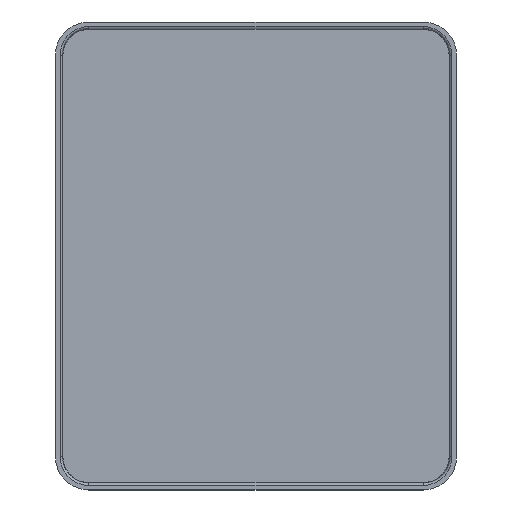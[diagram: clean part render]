
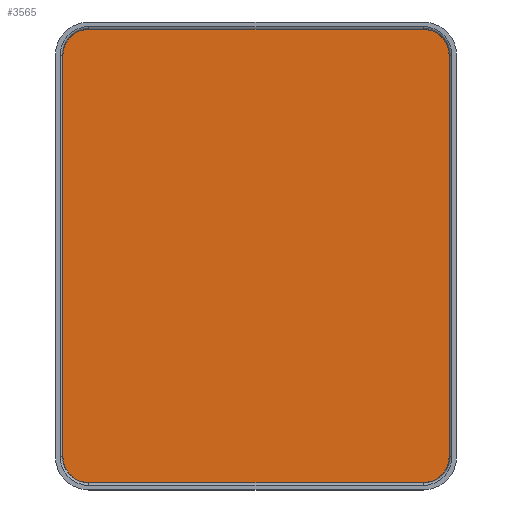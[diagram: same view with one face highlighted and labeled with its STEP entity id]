
A CAD part, top view. The second image highlights one B-rep face of the part: STEP entity #3565.
In plain terms, the highlighted planar face has unit normal (0, 0, 1).
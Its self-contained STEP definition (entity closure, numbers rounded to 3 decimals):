
#452 = ORIENTED_EDGE ( 'NONE', *, *, #12867, .T. ) ;
#756 = EDGE_CURVE ( 'NONE', #15753, #10880, #2962, .T. ) ;
#2051 = AXIS2_PLACEMENT_3D ( 'NONE', #8614, #9884, #8693 ) ;
#2128 = CARTESIAN_POINT ( 'NONE',  ( -250., -338.893, 6. ) ) ;
#2144 = VECTOR ( 'NONE', #12189, 1000. ) ;
#2242 = ORIENTED_EDGE ( 'NONE', *, *, #6476, .T. ) ;
#2291 = CIRCLE ( 'NONE', #12994, 38.893 ) ;
#2889 = EDGE_CURVE ( 'NONE', #7442, #9855, #14945, .T. ) ;
#2904 = VECTOR ( 'NONE', #4018, 1000. ) ;
#2910 = ORIENTED_EDGE ( 'NONE', *, *, #12473, .T. ) ;
#2962 = CIRCLE ( 'NONE', #13136, 38.893 ) ;
#3015 = CARTESIAN_POINT ( 'NONE',  ( 250., -300., 6. ) ) ;
#3565 = ADVANCED_FACE ( 'NONE', ( #15283 ), #10272, .T. ) ;
#3935 = DIRECTION ( 'NONE',  ( 1., 0., 0. ) ) ;
#4018 = DIRECTION ( 'NONE',  ( -1., 0., 0. ) ) ;
#4158 = DIRECTION ( 'NONE',  ( 1., 0., 0. ) ) ;
#4320 = CARTESIAN_POINT ( 'NONE',  ( -250., 300., 6. ) ) ;
#5120 = CARTESIAN_POINT ( 'NONE',  ( 250., -338.893, 6. ) ) ;
#5389 = ORIENTED_EDGE ( 'NONE', *, *, #2889, .T. ) ;
#5509 = EDGE_CURVE ( 'NONE', #9855, #15753, #7755, .T. ) ;
#5802 = AXIS2_PLACEMENT_3D ( 'NONE', #11097, #9768, #3935 ) ;
#6323 = CARTESIAN_POINT ( 'NONE',  ( 250., 338.893, 6. ) ) ;
#6392 = VECTOR ( 'NONE', #12769, 1000. ) ;
#6476 = EDGE_CURVE ( 'NONE', #10880, #12370, #8076, .T. ) ;
#6704 = DIRECTION ( 'NONE',  ( 0., 0., 1. ) ) ;
#6780 = LINE ( 'NONE', #7339, #2144 ) ;
#6847 = DIRECTION ( 'NONE',  ( 0., 0., 1. ) ) ;
#7339 = CARTESIAN_POINT ( 'NONE',  ( -288.893, 300., 6. ) ) ;
#7442 = VERTEX_POINT ( 'NONE', #7673 ) ;
#7601 = VERTEX_POINT ( 'NONE', #10369 ) ;
#7603 = EDGE_CURVE ( 'NONE', #7601, #14228, #2291, .T. ) ;
#7673 = CARTESIAN_POINT ( 'NONE',  ( -288.893, -300., 6. ) ) ;
#7755 = LINE ( 'NONE', #9107, #14013 ) ;
#7876 = CARTESIAN_POINT ( 'NONE',  ( 288.893, -300., 6. ) ) ;
#7877 = DIRECTION ( 'NONE',  ( 0., 0., 1. ) ) ;
#7897 = CARTESIAN_POINT ( 'NONE',  ( -288.893, 300., 6. ) ) ;
#8076 = LINE ( 'NONE', #14860, #6392 ) ;
#8175 = EDGE_CURVE ( 'NONE', #12370, #15024, #8937, .T. ) ;
#8355 = AXIS2_PLACEMENT_3D ( 'NONE', #10350, #6847, #13865 ) ;
#8614 = CARTESIAN_POINT ( 'NONE',  ( 250., 300., 6. ) ) ;
#8693 = DIRECTION ( 'NONE',  ( 1., 0., 0. ) ) ;
#8937 = CIRCLE ( 'NONE', #2051, 38.893 ) ;
#9107 = CARTESIAN_POINT ( 'NONE',  ( -250., -338.893, 6. ) ) ;
#9748 = CARTESIAN_POINT ( 'NONE',  ( 250., 338.893, 6. ) ) ;
#9768 = DIRECTION ( 'NONE',  ( 0., 0., 1. ) ) ;
#9855 = VERTEX_POINT ( 'NONE', #2128 ) ;
#9884 = DIRECTION ( 'NONE',  ( 0., 0., 1. ) ) ;
#10272 = PLANE ( 'NONE',  #8355 ) ;
#10350 = CARTESIAN_POINT ( 'NONE',  ( 250., 300., 6. ) ) ;
#10369 = CARTESIAN_POINT ( 'NONE',  ( -250., 338.893, 6. ) ) ;
#10880 = VERTEX_POINT ( 'NONE', #7876 ) ;
#10935 = ORIENTED_EDGE ( 'NONE', *, *, #8175, .T. ) ;
#11097 = CARTESIAN_POINT ( 'NONE',  ( -250., -300., 6. ) ) ;
#11393 = ORIENTED_EDGE ( 'NONE', *, *, #756, .T. ) ;
#11563 = DIRECTION ( 'NONE',  ( 1., 0., 0. ) ) ;
#11901 = CARTESIAN_POINT ( 'NONE',  ( 288.893, 300., 6. ) ) ;
#12048 = ORIENTED_EDGE ( 'NONE', *, *, #7603, .T. ) ;
#12189 = DIRECTION ( 'NONE',  ( 0., -1., 0. ) ) ;
#12370 = VERTEX_POINT ( 'NONE', #11901 ) ;
#12473 = EDGE_CURVE ( 'NONE', #15024, #7601, #14849, .T. ) ;
#12726 = DIRECTION ( 'NONE',  ( 1., 0., 0. ) ) ;
#12769 = DIRECTION ( 'NONE',  ( 0., 1., 0. ) ) ;
#12867 = EDGE_CURVE ( 'NONE', #14228, #7442, #6780, .T. ) ;
#12994 = AXIS2_PLACEMENT_3D ( 'NONE', #4320, #6704, #11563 ) ;
#13136 = AXIS2_PLACEMENT_3D ( 'NONE', #3015, #7877, #12726 ) ;
#13218 = EDGE_LOOP ( 'NONE', ( #10935, #2910, #12048, #452, #5389, #15706, #11393, #2242 ) ) ;
#13865 = DIRECTION ( 'NONE',  ( 1., 0., 0. ) ) ;
#14013 = VECTOR ( 'NONE', #4158, 1000. ) ;
#14228 = VERTEX_POINT ( 'NONE', #7897 ) ;
#14849 = LINE ( 'NONE', #6323, #2904 ) ;
#14860 = CARTESIAN_POINT ( 'NONE',  ( 288.893, -300., 6. ) ) ;
#14945 = CIRCLE ( 'NONE', #5802, 38.893 ) ;
#15024 = VERTEX_POINT ( 'NONE', #9748 ) ;
#15283 = FACE_OUTER_BOUND ( 'NONE', #13218, .T. ) ;
#15706 = ORIENTED_EDGE ( 'NONE', *, *, #5509, .T. ) ;
#15753 = VERTEX_POINT ( 'NONE', #5120 ) ;
